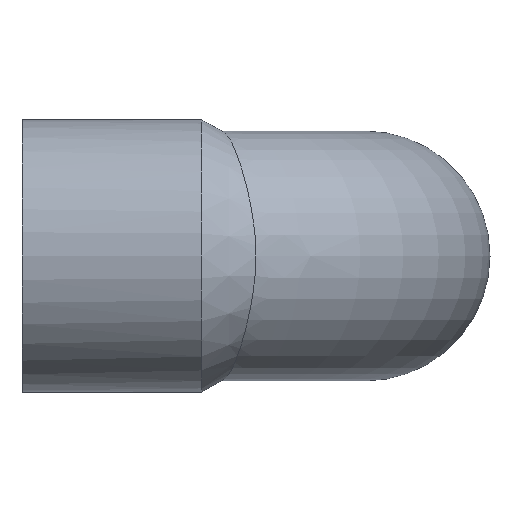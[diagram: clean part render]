
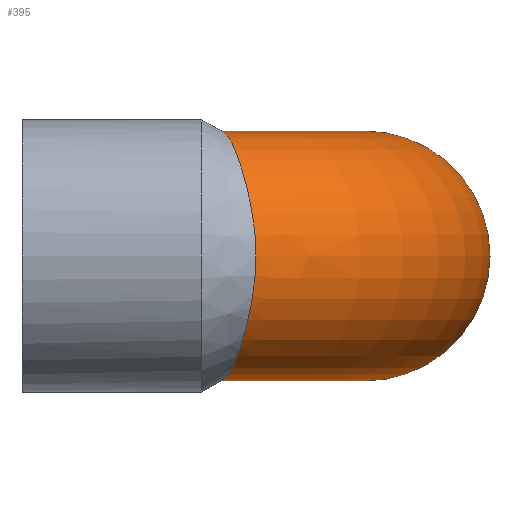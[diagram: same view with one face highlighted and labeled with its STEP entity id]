
A CAD part, front view. The second image highlights one B-rep face of the part: STEP entity #395.
In plain terms, the highlighted toroidal (fillet/blend) face has major radius 13.5 mm and minor radius 7.5 mm.
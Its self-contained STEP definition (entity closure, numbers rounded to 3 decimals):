
#112=CARTESIAN_POINT('',(21.0,0.,0.));
#113=VERTEX_POINT('',#112);
#114=CARTESIAN_POINT('',(13.5,0.,0.0));
#115=DIRECTION('',(0.0,-1.0,0.0));
#116=DIRECTION('',(1.0,0.0,0.0));
#117=AXIS2_PLACEMENT_3D('',#114,#115,#116);
#118=CIRCLE('',#117,7.5);
#119=EDGE_CURVE('',#113,#113,#118,.T.);
#141=CARTESIAN_POINT('',(3.688,-7.011,5.013));
#142=VERTEX_POINT('',#141);
#143=CARTESIAN_POINT('',(3.688,-7.011,-5.013));
#144=VERTEX_POINT('',#143);
#145=CARTESIAN_POINT('',(3.688,-7.011,5.013));
#146=CARTESIAN_POINT('',(3.834,-7.703,5.771));
#147=CARTESIAN_POINT('',(4.004,-8.546,6.384));
#148=CARTESIAN_POINT('',(4.187,-9.472,6.809));
#149=CARTESIAN_POINT('',(4.371,-10.4,7.236));
#150=CARTESIAN_POINT('',(4.567,-11.415,7.473));
#151=CARTESIAN_POINT('',(4.773,-12.431,7.498));
#152=CARTESIAN_POINT('',(4.95,-13.31,7.52));
#153=CARTESIAN_POINT('',(5.136,-14.195,7.382));
#154=CARTESIAN_POINT('',(5.326,-15.022,7.093));
#155=CARTESIAN_POINT('',(5.502,-15.788,6.824));
#156=CARTESIAN_POINT('',(5.684,-16.51,6.422));
#157=CARTESIAN_POINT('',(5.866,-17.139,5.912));
#158=CARTESIAN_POINT('',(6.005,-17.618,5.523));
#159=CARTESIAN_POINT('',(6.145,-18.048,5.068));
#160=CARTESIAN_POINT('',(6.279,-18.41,4.564));
#161=CARTESIAN_POINT('',(6.386,-18.698,4.164));
#162=CARTESIAN_POINT('',(6.489,-18.943,3.734));
#163=CARTESIAN_POINT('',(6.583,-19.144,3.282));
#164=CARTESIAN_POINT('',(6.65,-19.288,2.957));
#165=CARTESIAN_POINT('',(6.711,-19.408,2.624));
#166=CARTESIAN_POINT('',(6.765,-19.507,2.276));
#167=CARTESIAN_POINT('',(6.874,-19.706,1.572));
#168=CARTESIAN_POINT('',(6.954,-19.823,0.782));
#169=CARTESIAN_POINT('',(6.949,-19.817,-0.071));
#170=CARTESIAN_POINT('',(6.947,-19.814,-0.395));
#171=CARTESIAN_POINT('',(6.933,-19.793,-0.729));
#172=CARTESIAN_POINT('',(6.908,-19.752,-1.055));
#173=CARTESIAN_POINT('',(6.845,-19.652,-1.865));
#174=CARTESIAN_POINT('',(6.716,-19.435,-2.652));
#175=CARTESIAN_POINT('',(6.562,-19.099,-3.381));
#176=CARTESIAN_POINT('',(6.424,-18.798,-4.034));
#177=CARTESIAN_POINT('',(6.268,-18.403,-4.635));
#178=CARTESIAN_POINT('',(6.109,-17.924,-5.166));
#179=CARTESIAN_POINT('',(5.972,-17.513,-5.623));
#180=CARTESIAN_POINT('',(5.833,-17.039,-6.025));
#181=CARTESIAN_POINT('',(5.696,-16.524,-6.358));
#182=CARTESIAN_POINT('',(5.487,-15.741,-6.864));
#183=CARTESIAN_POINT('',(5.281,-14.851,-7.213));
#184=CARTESIAN_POINT('',(5.084,-13.931,-7.381));
#185=CARTESIAN_POINT('',(4.871,-12.937,-7.563));
#186=CARTESIAN_POINT('',(4.665,-11.898,-7.534));
#187=CARTESIAN_POINT('',(4.47,-10.909,-7.302));
#188=CARTESIAN_POINT('',(4.27,-9.891,-7.064));
#189=CARTESIAN_POINT('',(4.079,-8.918,-6.609));
#190=CARTESIAN_POINT('',(3.908,-8.077,-5.98));
#191=CARTESIAN_POINT('',(3.83,-7.693,-5.692));
#192=CARTESIAN_POINT('',(3.756,-7.336,-5.369));
#193=CARTESIAN_POINT('',(3.688,-7.011,-5.013));
#194=B_SPLINE_CURVE_WITH_KNOTS('',3,(#145,#146,#147,#148,#149,#150,#151,#152,#153,#154,#155,#156,#157,#158,#159,#160,#161,#162,#163,#164,#165,#166,#167,#168,#169,#170,#171,#172,#173,#174,#175,#176,#177,#178,#179,#180,#181,#182,#183,#184,#185,#186,#187,#188,#189,#190,#191,#192,#193),.UNSPECIFIED.,.F.,.U.,(4,3,3,3,3,3,3,3,3,3,3,3,3,3,3,3,4),(-3.964,-3.597,-3.229,-2.91,-2.615,-2.389,-2.21,-2.081,-1.821,-1.722,-1.476,-1.256,-1.066,-0.778,-0.467,-0.146,0.0),.UNSPECIFIED.);
#195=EDGE_CURVE('',#142,#144,#194,.T.);
#342=CARTESIAN_POINT('',(3.688,-7.011,-5.013));
#343=CARTESIAN_POINT('',(3.56,-6.797,-4.737));
#344=CARTESIAN_POINT('',(3.45,-6.598,-4.442));
#345=CARTESIAN_POINT('',(3.099,-5.935,-3.305));
#346=CARTESIAN_POINT('',(2.944,-5.59,-2.376));
#347=CARTESIAN_POINT('',(2.791,-5.254,-0.438));
#348=CARTESIAN_POINT('',(2.794,-5.26,0.549));
#349=CARTESIAN_POINT('',(2.942,-5.586,2.288));
#350=CARTESIAN_POINT('',(3.06,-5.844,3.038));
#351=CARTESIAN_POINT('',(3.359,-6.432,4.189));
#352=CARTESIAN_POINT('',(3.506,-6.707,4.619));
#353=CARTESIAN_POINT('',(3.688,-7.011,5.013));
#354=B_SPLINE_CURVE_WITH_KNOTS('',3,(#342,#343,#344,#345,#346,#347,#348,#349,#350,#351,#352,#353),.UNSPECIFIED.,.F.,.U.,(4,2,2,2,2,4),(-1.098,-0.987,-0.69,-0.397,-0.159,0.0),.UNSPECIFIED.);
#355=EDGE_CURVE('',#144,#142,#354,.T.);
#383=CARTESIAN_POINT('',(0.0,0.0,0.0));
#384=DIRECTION('',(0.0,0.0,1.0));
#385=DIRECTION('',(1.0,0.0,0.0));
#386=AXIS2_PLACEMENT_3D('',#383,#384,#385);
#387=TOROIDAL_SURFACE('',#386,13.5,7.5);
#388=ORIENTED_EDGE('',*,*,#119,.T.);
#389=EDGE_LOOP('',(#388));
#390=FACE_OUTER_BOUND('',#389,.T.);
#391=ORIENTED_EDGE('',*,*,#195,.T.);
#392=ORIENTED_EDGE('',*,*,#355,.T.);
#393=EDGE_LOOP('',(#391,#392));
#394=FACE_BOUND('',#393,.T.);
#395=ADVANCED_FACE('',(#390,#394),#387,.T.);
